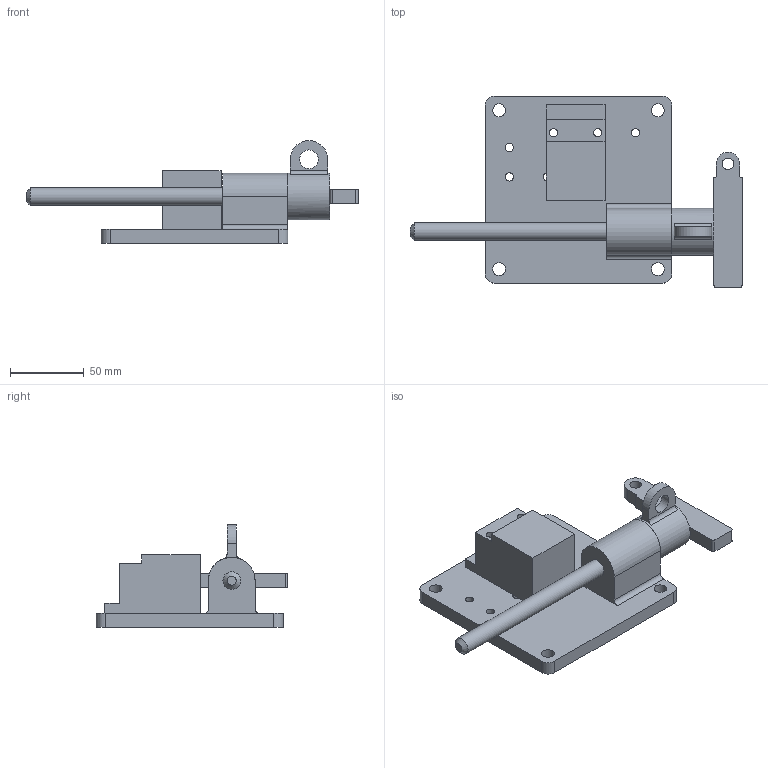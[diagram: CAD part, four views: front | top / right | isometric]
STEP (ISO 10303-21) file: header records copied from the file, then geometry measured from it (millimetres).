
FILE_DESCRIPTION(/* description */ (''),/* implementation_level */ '2;1');
FILE_NAME(/* name */ 'C:\Users\rcarver\Desktop\Tru-LOK pin\Ford-FCA\With Switch\SP12Y175TY00201.stp',/* time_stamp */ '2016-06-21T11:08:55-04:00',/* author */ ('rcarver'),/* organization */ (''),/* preprocessor_version */ 'ST-DEVELOPER v16.5',/* originating_system */ 'Autodesk Inventor 2017',/* authorisation */ '');
FILE_SCHEMA (('AUTOMOTIVE_DESIGN { 1 0 10303 214 3 1 1 }'));
Length unit declared in the file: millimetre
Products named in the file (1): SP12Y175TY00201
Bounding box: 225.62 x 130.18 x 69.85 mm (x, y, z)
Volume: 339690.8 mm3; surface area: 72417.2 mm2
Topology: 3 solids, 3 shells, 69 faces, 193 edges, 132 vertices
Faces by surface type: plane 37, cylinder 31, cone 1
Full cylindrical faces by diameter (mm): 5.588 x2, 5.59 x6, 7.94 x1, 8.74 x4, 12 x1, 12.7 x1, 31.75 x1
Entity records: 2196 total; most frequent: DIRECTION 368, CARTESIAN_POINT 346, ORIENTED_EDGE 320, EDGE_CURVE 160, AXIS2_PLACEMENT_3D 138, EDGE_LOOP 116, VERTEX_POINT 116, LINE 92
